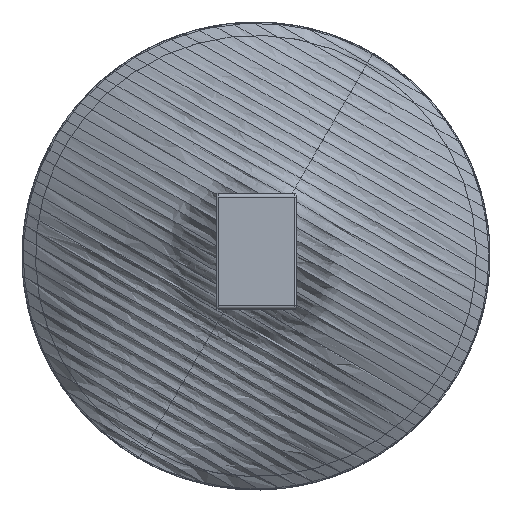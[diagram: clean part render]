
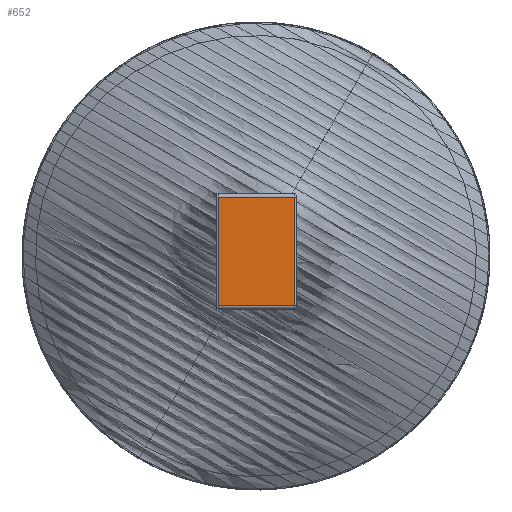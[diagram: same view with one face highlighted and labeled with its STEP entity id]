
A CAD part, top view. The second image highlights one B-rep face of the part: STEP entity #652.
In plain terms, the highlighted planar face has unit normal (0, 0, 1).
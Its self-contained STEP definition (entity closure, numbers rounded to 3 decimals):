
#652=ADVANCED_FACE('',(#826),#2733,.T.);
#826=FACE_OUTER_BOUND('',#1006,.T.);
#1006=EDGE_LOOP('',(#1682,#1683,#1684,#1685));
#1682=ORIENTED_EDGE('',*,*,#2225,.F.);
#1683=ORIENTED_EDGE('',*,*,#2227,.T.);
#1684=ORIENTED_EDGE('',*,*,#2226,.T.);
#1685=ORIENTED_EDGE('',*,*,#2228,.F.);
#2225=EDGE_CURVE('',#2675,#2676,#2413,.T.);
#2226=EDGE_CURVE('',#2678,#2677,#2414,.T.);
#2227=EDGE_CURVE('',#2675,#2678,#2415,.T.);
#2228=EDGE_CURVE('',#2676,#2677,#2416,.T.);
#2413=(
BOUNDED_CURVE()
B_SPLINE_CURVE(1,(#27926,#27927),.UNSPECIFIED.,.F.,.F.)
B_SPLINE_CURVE_WITH_KNOTS((2,2),(0.5,19.5),
 .UNSPECIFIED.)
CURVE()
GEOMETRIC_REPRESENTATION_ITEM()
RATIONAL_B_SPLINE_CURVE((1.,1.))
REPRESENTATION_ITEM('')
);
#2414=(
BOUNDED_CURVE()
B_SPLINE_CURVE(1,(#27928,#27929),.UNSPECIFIED.,.F.,.F.)
B_SPLINE_CURVE_WITH_KNOTS((2,2),(0.5,19.5),
 .UNSPECIFIED.)
CURVE()
GEOMETRIC_REPRESENTATION_ITEM()
RATIONAL_B_SPLINE_CURVE((1.,1.))
REPRESENTATION_ITEM('')
);
#2415=(
BOUNDED_CURVE()
B_SPLINE_CURVE(1,(#27930,#27931),.UNSPECIFIED.,.F.,.F.)
B_SPLINE_CURVE_WITH_KNOTS((2,2),(0.,27.001),
 .UNSPECIFIED.)
CURVE()
GEOMETRIC_REPRESENTATION_ITEM()
RATIONAL_B_SPLINE_CURVE((1.,1.))
REPRESENTATION_ITEM('')
);
#2416=(
BOUNDED_CURVE()
B_SPLINE_CURVE(1,(#27932,#27933),.UNSPECIFIED.,.F.,.F.)
B_SPLINE_CURVE_WITH_KNOTS((2,2),(0.,27.001),
 .UNSPECIFIED.)
CURVE()
GEOMETRIC_REPRESENTATION_ITEM()
RATIONAL_B_SPLINE_CURVE((1.,1.))
REPRESENTATION_ITEM('')
);
#2675=VERTEX_POINT('',#27746);
#2676=VERTEX_POINT('',#27747);
#2677=VERTEX_POINT('',#27748);
#2678=VERTEX_POINT('',#27749);
#2733=PLANE('',#2797);
#2797=AXIS2_PLACEMENT_3D('',#27530,#2857,$);
#2857=DIRECTION('',(0.,0.,1.));
#27530=CARTESIAN_POINT('',(10.032,-13.501,584.5));
#27746=CARTESIAN_POINT('',(9.532,-13.501,584.5));
#27747=CARTESIAN_POINT('',(-9.468,-13.501,584.5));
#27748=CARTESIAN_POINT('',(-9.468,13.501,584.5));
#27749=CARTESIAN_POINT('',(9.532,13.501,584.5));
#27926=CARTESIAN_POINT('',(9.532,-13.501,584.5));
#27927=CARTESIAN_POINT('',(-9.468,-13.501,584.5));
#27928=CARTESIAN_POINT('',(9.532,13.501,584.5));
#27929=CARTESIAN_POINT('',(-9.468,13.501,584.5));
#27930=CARTESIAN_POINT('',(9.532,-13.501,584.5));
#27931=CARTESIAN_POINT('',(9.532,13.501,584.5));
#27932=CARTESIAN_POINT('',(-9.468,-13.501,584.5));
#27933=CARTESIAN_POINT('',(-9.468,13.501,584.5));
